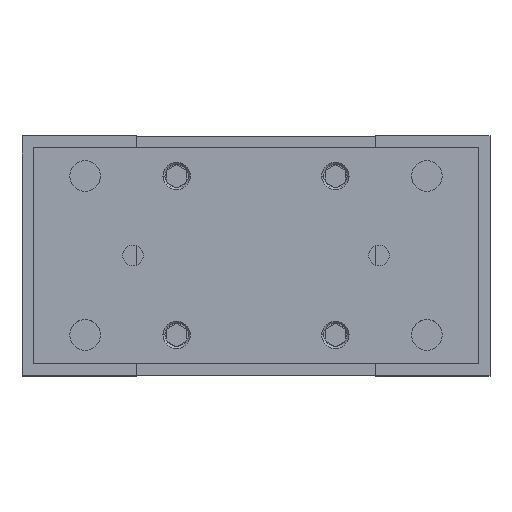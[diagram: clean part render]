
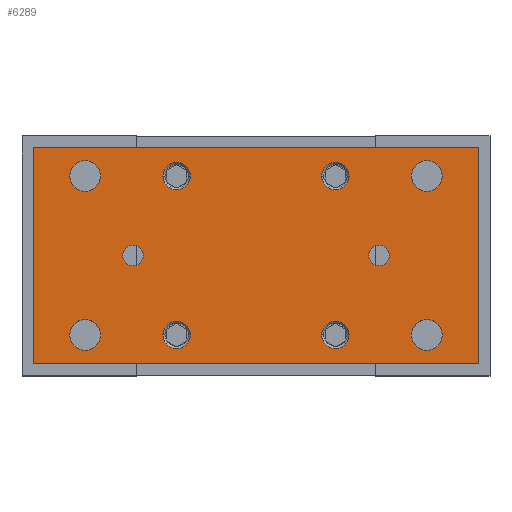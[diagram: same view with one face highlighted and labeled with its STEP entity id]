
A CAD part, top view. The second image highlights one B-rep face of the part: STEP entity #6289.
In plain terms, the highlighted planar face has unit normal (0, 0, 1).
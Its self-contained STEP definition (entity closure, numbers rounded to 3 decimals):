
#5192=CARTESIAN_POINT('',(-50.,23.25,0.));
#5193=DIRECTION('',(0.,0.,-1.));
#5194=DIRECTION('',(1.,0.,0.));
#5195=AXIS2_PLACEMENT_3D('',#5192,#5193,#5194);
#5197=CARTESIAN_POINT('',(-50.,23.25,0.));
#5198=DIRECTION('',(0.,0.,-1.));
#5199=DIRECTION('',(-1.,0.,0.));
#5200=AXIS2_PLACEMENT_3D('',#5197,#5198,#5199);
#5202=CARTESIAN_POINT('',(50.,23.25,0.));
#5203=DIRECTION('',(0.,0.,-1.));
#5204=DIRECTION('',(1.,0.,0.));
#5205=AXIS2_PLACEMENT_3D('',#5202,#5203,#5204);
#5207=CARTESIAN_POINT('',(50.,23.25,0.));
#5208=DIRECTION('',(0.,0.,-1.));
#5209=DIRECTION('',(-1.,0.,0.));
#5210=AXIS2_PLACEMENT_3D('',#5207,#5208,#5209);
#5212=CARTESIAN_POINT('',(-50.,-23.25,0.));
#5213=DIRECTION('',(0.,0.,-1.));
#5214=DIRECTION('',(1.,0.,0.));
#5215=AXIS2_PLACEMENT_3D('',#5212,#5213,#5214);
#5217=CARTESIAN_POINT('',(-50.,-23.25,0.));
#5218=DIRECTION('',(0.,0.,-1.));
#5219=DIRECTION('',(-1.,0.,0.));
#5220=AXIS2_PLACEMENT_3D('',#5217,#5218,#5219);
#5222=CARTESIAN_POINT('',(50.,-23.25,0.));
#5223=DIRECTION('',(0.,0.,-1.));
#5224=DIRECTION('',(1.,0.,0.));
#5225=AXIS2_PLACEMENT_3D('',#5222,#5223,#5224);
#5227=CARTESIAN_POINT('',(50.,-23.25,0.));
#5228=DIRECTION('',(0.,0.,-1.));
#5229=DIRECTION('',(-1.,0.,0.));
#5230=AXIS2_PLACEMENT_3D('',#5227,#5228,#5229);
#5232=CARTESIAN_POINT('',(36.,0.,0.));
#5233=DIRECTION('',(0.,0.,-1.));
#5234=DIRECTION('',(1.,0.,0.));
#5235=AXIS2_PLACEMENT_3D('',#5232,#5233,#5234);
#5237=CARTESIAN_POINT('',(36.,0.,0.));
#5238=DIRECTION('',(0.,0.,-1.));
#5239=DIRECTION('',(-1.,0.,0.));
#5240=AXIS2_PLACEMENT_3D('',#5237,#5238,#5239);
#5242=CARTESIAN_POINT('',(-36.,0.,0.));
#5243=DIRECTION('',(0.,0.,-1.));
#5244=DIRECTION('',(1.,0.,0.));
#5245=AXIS2_PLACEMENT_3D('',#5242,#5243,#5244);
#5247=CARTESIAN_POINT('',(-36.,0.,0.));
#5248=DIRECTION('',(0.,0.,-1.));
#5249=DIRECTION('',(-1.,0.,0.));
#5250=AXIS2_PLACEMENT_3D('',#5247,#5248,#5249);
#5252=DIRECTION('',(-1.,0.,0.));
#5253=VECTOR('',#5252,130.);
#5254=CARTESIAN_POINT('',(65.,31.5,0.));
#5255=LINE('99',#5254,#5253);
#5256=DIRECTION('',(0.,1.,0.));
#5257=VECTOR('',#5256,63.);
#5258=CARTESIAN_POINT('',(65.,-31.5,0.));
#5259=LINE('102',#5258,#5257);
#5260=DIRECTION('',(1.,0.,0.));
#5261=VECTOR('',#5260,130.);
#5262=CARTESIAN_POINT('',(-65.,-31.5,0.));
#5263=LINE('101',#5262,#5261);
#5264=DIRECTION('',(0.,-1.,0.));
#5265=VECTOR('',#5264,63.);
#5266=CARTESIAN_POINT('',(-65.,31.5,0.));
#5267=LINE('100',#5266,#5265);
#5268=CARTESIAN_POINT('',(-23.25,23.25,0.));
#5269=DIRECTION('',(0.,0.,-1.));
#5270=DIRECTION('',(-1.,0.,0.));
#5271=AXIS2_PLACEMENT_3D('',#5268,#5269,#5270);
#5273=CARTESIAN_POINT('',(-23.25,23.25,0.));
#5274=DIRECTION('',(0.,0.,-1.));
#5275=DIRECTION('',(1.,0.,0.));
#5276=AXIS2_PLACEMENT_3D('',#5273,#5274,#5275);
#5278=CARTESIAN_POINT('',(23.25,23.25,0.));
#5279=DIRECTION('',(0.,0.,-1.));
#5280=DIRECTION('',(-1.,0.,0.));
#5281=AXIS2_PLACEMENT_3D('',#5278,#5279,#5280);
#5283=CARTESIAN_POINT('',(23.25,23.25,0.));
#5284=DIRECTION('',(0.,0.,-1.));
#5285=DIRECTION('',(1.,0.,0.));
#5286=AXIS2_PLACEMENT_3D('',#5283,#5284,#5285);
#5288=CARTESIAN_POINT('',(-23.25,-23.25,0.));
#5289=DIRECTION('',(0.,0.,-1.));
#5290=DIRECTION('',(-1.,0.,0.));
#5291=AXIS2_PLACEMENT_3D('',#5288,#5289,#5290);
#5293=CARTESIAN_POINT('',(-23.25,-23.25,0.));
#5294=DIRECTION('',(0.,0.,-1.));
#5295=DIRECTION('',(1.,0.,0.));
#5296=AXIS2_PLACEMENT_3D('',#5293,#5294,#5295);
#5298=CARTESIAN_POINT('',(23.25,-23.25,0.));
#5299=DIRECTION('',(0.,0.,-1.));
#5300=DIRECTION('',(-1.,0.,0.));
#5301=AXIS2_PLACEMENT_3D('',#5298,#5299,#5300);
#5303=CARTESIAN_POINT('',(23.25,-23.25,0.));
#5304=DIRECTION('',(0.,0.,-1.));
#5305=DIRECTION('',(1.,0.,0.));
#5306=AXIS2_PLACEMENT_3D('',#5303,#5304,#5305);
#5994=CARTESIAN_POINT('',(-45.5,23.25,0.));
#5995=CARTESIAN_POINT('',(-54.5,23.25,0.));
#5996=VERTEX_POINT('',#5994);
#5997=VERTEX_POINT('',#5995);
#5998=CARTESIAN_POINT('',(54.5,23.25,0.));
#5999=CARTESIAN_POINT('',(45.5,23.25,0.));
#6000=VERTEX_POINT('',#5998);
#6001=VERTEX_POINT('',#5999);
#6002=CARTESIAN_POINT('',(-45.5,-23.25,0.));
#6003=CARTESIAN_POINT('',(-54.5,-23.25,0.));
#6004=VERTEX_POINT('',#6002);
#6005=VERTEX_POINT('',#6003);
#6006=CARTESIAN_POINT('',(54.5,-23.25,0.));
#6007=CARTESIAN_POINT('',(45.5,-23.25,0.));
#6008=VERTEX_POINT('',#6006);
#6009=VERTEX_POINT('',#6007);
#6010=CARTESIAN_POINT('',(65.,31.5,0.));
#6011=CARTESIAN_POINT('',(-65.,31.5,0.));
#6012=VERTEX_POINT('',#6010);
#6013=VERTEX_POINT('',#6011);
#6014=CARTESIAN_POINT('',(-65.,-31.5,0.));
#6015=VERTEX_POINT('',#6014);
#6016=CARTESIAN_POINT('',(65.,-31.5,0.));
#6017=VERTEX_POINT('',#6016);
#6114=CARTESIAN_POINT('',(-27.25,23.25,0.));
#6115=CARTESIAN_POINT('',(-19.25,23.25,0.));
#6116=VERTEX_POINT('',#6114);
#6117=VERTEX_POINT('',#6115);
#6122=CARTESIAN_POINT('',(19.25,23.25,0.));
#6123=CARTESIAN_POINT('',(27.25,23.25,0.));
#6124=VERTEX_POINT('',#6122);
#6125=VERTEX_POINT('',#6123);
#6130=CARTESIAN_POINT('',(-27.25,-23.25,0.));
#6131=CARTESIAN_POINT('',(-19.25,-23.25,0.));
#6132=VERTEX_POINT('',#6130);
#6133=VERTEX_POINT('',#6131);
#6138=CARTESIAN_POINT('',(19.25,-23.25,0.));
#6139=CARTESIAN_POINT('',(27.25,-23.25,0.));
#6140=VERTEX_POINT('',#6138);
#6141=VERTEX_POINT('',#6139);
#6198=CARTESIAN_POINT('',(39.,0.,0.));
#6199=CARTESIAN_POINT('',(33.,0.,0.));
#6200=VERTEX_POINT('',#6198);
#6201=VERTEX_POINT('',#6199);
#6202=CARTESIAN_POINT('',(-33.,0.,0.));
#6203=CARTESIAN_POINT('',(-39.,0.,0.));
#6204=VERTEX_POINT('',#6202);
#6205=VERTEX_POINT('',#6203);
#6214=CARTESIAN_POINT('',(0.,0.,0.));
#6215=DIRECTION('',(0.,0.,1.));
#6216=DIRECTION('',(1.,0.,0.));
#6217=AXIS2_PLACEMENT_3D('',#6214,#6215,#6216);
#6218=PLANE('82',#6217);
#6220=ORIENTED_EDGE('99',*,*,#6219,.F.);
#6222=ORIENTED_EDGE('102',*,*,#6221,.F.);
#6224=ORIENTED_EDGE('101',*,*,#6223,.F.);
#6226=ORIENTED_EDGE('100',*,*,#6225,.F.);
#6227=EDGE_LOOP('82',(#6220,#6222,#6224,#6226));
#6228=FACE_OUTER_BOUND('82',#6227,.F.);
#6230=ORIENTED_EDGE('83',*,*,#6229,.F.);
#6232=ORIENTED_EDGE('84',*,*,#6231,.F.);
#6233=EDGE_LOOP('82',(#6230,#6232));
#6234=FACE_BOUND('82',#6233,.F.);
#6236=ORIENTED_EDGE('87',*,*,#6235,.F.);
#6238=ORIENTED_EDGE('88',*,*,#6237,.F.);
#6239=EDGE_LOOP('82',(#6236,#6238));
#6240=FACE_BOUND('82',#6239,.F.);
#6242=ORIENTED_EDGE('91',*,*,#6241,.F.);
#6244=ORIENTED_EDGE('92',*,*,#6243,.F.);
#6245=EDGE_LOOP('82',(#6242,#6244));
#6246=FACE_BOUND('82',#6245,.F.);
#6248=ORIENTED_EDGE('95',*,*,#6247,.F.);
#6250=ORIENTED_EDGE('96',*,*,#6249,.F.);
#6251=EDGE_LOOP('82',(#6248,#6250));
#6252=FACE_BOUND('82',#6251,.F.);
#6254=ORIENTED_EDGE('811',*,*,#6253,.F.);
#6256=ORIENTED_EDGE('812',*,*,#6255,.F.);
#6257=EDGE_LOOP('82',(#6254,#6256));
#6258=FACE_BOUND('82',#6257,.F.);
#6260=ORIENTED_EDGE('813',*,*,#6259,.F.);
#6262=ORIENTED_EDGE('814',*,*,#6261,.F.);
#6263=EDGE_LOOP('82',(#6260,#6262));
#6264=FACE_BOUND('82',#6263,.F.);
#6266=ORIENTED_EDGE('541',*,*,#6265,.F.);
#6268=ORIENTED_EDGE('543',*,*,#6267,.F.);
#6269=EDGE_LOOP('82',(#6266,#6268));
#6270=FACE_BOUND('82',#6269,.F.);
#6272=ORIENTED_EDGE('545',*,*,#6271,.F.);
#6274=ORIENTED_EDGE('547',*,*,#6273,.F.);
#6275=EDGE_LOOP('82',(#6272,#6274));
#6276=FACE_BOUND('82',#6275,.F.);
#6278=ORIENTED_EDGE('549',*,*,#6277,.F.);
#6280=ORIENTED_EDGE('551',*,*,#6279,.F.);
#6281=EDGE_LOOP('82',(#6278,#6280));
#6282=FACE_BOUND('82',#6281,.F.);
#6284=ORIENTED_EDGE('553',*,*,#6283,.F.);
#6286=ORIENTED_EDGE('555',*,*,#6285,.F.);
#6287=EDGE_LOOP('82',(#6284,#6286));
#6288=FACE_BOUND('82',#6287,.F.);
#6289=ADVANCED_FACE('82',(#6228,#6234,#6240,#6246,#6252,#6258,#6264,#6270,#6276,
#6282,#6288),#6218,.T.);
#5196=CIRCLE('83',#5195,4.5);
#5201=CIRCLE('84',#5200,4.5);
#5206=CIRCLE('87',#5205,4.5);
#5211=CIRCLE('88',#5210,4.5);
#5216=CIRCLE('91',#5215,4.5);
#5221=CIRCLE('92',#5220,4.5);
#5226=CIRCLE('95',#5225,4.5);
#5231=CIRCLE('96',#5230,4.5);
#5236=CIRCLE('811',#5235,3.);
#5241=CIRCLE('812',#5240,3.);
#5246=CIRCLE('813',#5245,3.);
#5251=CIRCLE('814',#5250,3.);
#5272=CIRCLE('541',#5271,4.);
#5277=CIRCLE('543',#5276,4.);
#5282=CIRCLE('545',#5281,4.);
#5287=CIRCLE('547',#5286,4.);
#5292=CIRCLE('549',#5291,4.);
#5297=CIRCLE('551',#5296,4.);
#5302=CIRCLE('553',#5301,4.);
#5307=CIRCLE('555',#5306,4.);
#6219=EDGE_CURVE('99',#6012,#6013,#5255,.T.);
#6221=EDGE_CURVE('102',#6017,#6012,#5259,.T.);
#6223=EDGE_CURVE('101',#6015,#6017,#5263,.T.);
#6225=EDGE_CURVE('100',#6013,#6015,#5267,.T.);
#6229=EDGE_CURVE('83',#5996,#5997,#5196,.T.);
#6231=EDGE_CURVE('84',#5997,#5996,#5201,.T.);
#6235=EDGE_CURVE('87',#6000,#6001,#5206,.T.);
#6237=EDGE_CURVE('88',#6001,#6000,#5211,.T.);
#6241=EDGE_CURVE('91',#6004,#6005,#5216,.T.);
#6243=EDGE_CURVE('92',#6005,#6004,#5221,.T.);
#6247=EDGE_CURVE('95',#6008,#6009,#5226,.T.);
#6249=EDGE_CURVE('96',#6009,#6008,#5231,.T.);
#6253=EDGE_CURVE('811',#6200,#6201,#5236,.T.);
#6255=EDGE_CURVE('812',#6201,#6200,#5241,.T.);
#6259=EDGE_CURVE('813',#6204,#6205,#5246,.T.);
#6261=EDGE_CURVE('814',#6205,#6204,#5251,.T.);
#6265=EDGE_CURVE('541',#6116,#6117,#5272,.T.);
#6267=EDGE_CURVE('543',#6117,#6116,#5277,.T.);
#6271=EDGE_CURVE('545',#6124,#6125,#5282,.T.);
#6273=EDGE_CURVE('547',#6125,#6124,#5287,.T.);
#6277=EDGE_CURVE('549',#6132,#6133,#5292,.T.);
#6279=EDGE_CURVE('551',#6133,#6132,#5297,.T.);
#6283=EDGE_CURVE('553',#6140,#6141,#5302,.T.);
#6285=EDGE_CURVE('555',#6141,#6140,#5307,.T.);
